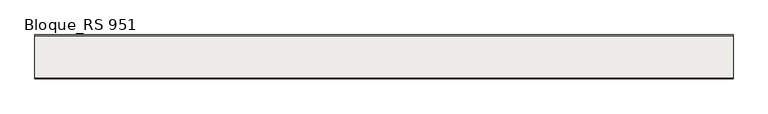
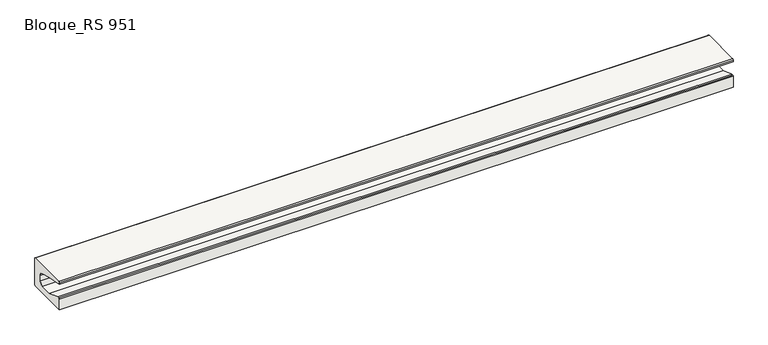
"""IFC4 building model written with IfcOpenShell, lengths in millimetres: slab geometry, ROSA GRES_RS 951 : Bloque_RS 951."""

from ifc_helpers import new_model, si_unit, point, frame, frame_2d, origin, place, context, project, spatial, polyline, circle_curve, trimmed, segment, composite_curve, outline, extrude, source, transform, mapped, element, save


def bloque_rs_951_6084ace4(model_context):
    return source(origin(), model_context, "Body", "SweptSolid", [
        extrude(outline(composite_curve([segment(polyline([(20.0, 10.0), (20.0, 90.0094288)]), True, "CONTINUOUS"), segment(trimmed(circle_curve(frame_2d((25.0, 90.0094288)), 5.0), [point((20.0, 90.0094288))], [point((25.0, 95.0094288))], False, "CARTESIAN"), True, "CONTINUOUS"), segment(polyline([(25.0, 95.0094288), (38.2035251, 95.0094288), (141.2759641, 60.0838698), (225.0599333, 60.0838698)]), True, "CONTINUOUS"), segment(trimmed(circle_curve(frame_2d((225.2461128, 84.8382752)), 24.7551055), [point((225.0599333, 60.0838698))], [point((250.0, 85.0838698))], True, "CARTESIAN"), True, "CONTINUOUS"), segment(polyline([(250.0, 85.0838698), (250.0, 128.9393377)]), True, "CONTINUOUS"), segment(trimmed(circle_curve(frame_2d((225.2461128, 129.1849323)), 24.7551055), [point((250.0, 128.9393377))], [point((231.9063097, 153.0272691))], True, "CARTESIAN"), True, "CONTINUOUS"), segment(polyline([(231.9063097, 153.0272691), (141.4794893, 178.287395), (19.9999903, 200.0838698), (19.9999903, 210.2775772)]), True, "CONTINUOUS"), segment(trimmed(circle_curve(frame_2d((27.9999903, 210.2775772)), 8.0), [point((19.9999903, 210.2775772))], [point((27.9999903, 218.2775772))], False, "CARTESIAN"), True, "CONTINUOUS"), segment(polyline([(27.9999903, 218.2775772), (311.9003845, 218.2775772)]), True, "CONTINUOUS"), segment(trimmed(circle_curve(frame_2d((312.2133333, 213.297208)), 4.9901918), [point((311.9003845, 218.2775772))], [point((317.2035155, 213.2873902))], False, "CARTESIAN"), True, "CONTINUOUS"), segment(polyline([(317.2035155, 213.2873902), (317.2035155, 20.0)]), True, "CONTINUOUS"), segment(trimmed(circle_curve(frame_2d((307.2035155, 20.0)), 10.0), [point((317.2035155, 20.0))], [point((307.2035155, 10.0))], False, "CARTESIAN"), True, "CONTINUOUS"), segment(polyline([(307.2035155, 10.0), (20.0, 10.0)]), True, "CONTINUOUS")], self_intersect=False)), frame((0.0, 0.0, 0.0), z_axis=(1.0, 0.0, 0.0), x_axis=(0.0, 1.0, 0.0)), (0.0, 0.0, 1.0), 4735.5),
    ])


if __name__ == "__main__":
    model = new_model("IFC4")
    model_context = context("Model", 3, world=origin())
    ifc_project = project(units=[si_unit("LENGTHUNIT", "METRE", prefix="MILLI")], contexts=[model_context])
    site = spatial("IfcSite", under=ifc_project)
    building = spatial("IfcBuilding", under=site)
    placement = place(None, origin())
    bloque_rs_951_shape = bloque_rs_951_6084ace4(model_context)
    element("IfcSlab", 1, ObjectType="ROSA GRES_RS 951 : Bloque_RS 951", at=placement, inside=building, context=model_context, shape_type="MappedRepresentation", body=[
        mapped(bloque_rs_951_shape, transform((0.0, 0.0, 0.0), x_axis=(1.0, 0.0, 0.0), y_axis=(0.0, 1.0, 0.0), z_axis=(0.0, 0.0, 1.0))),
    ])
    save(model, "model.ifc")
